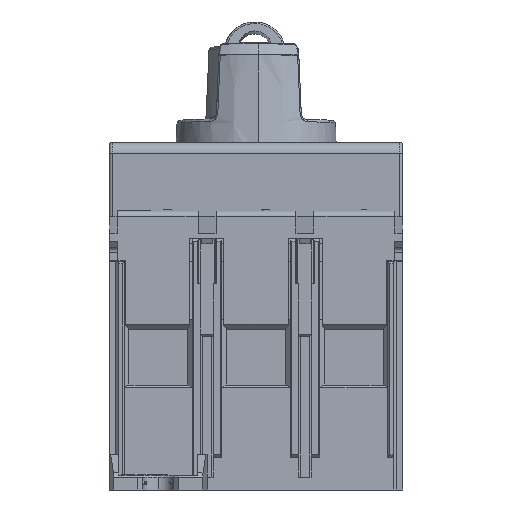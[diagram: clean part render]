
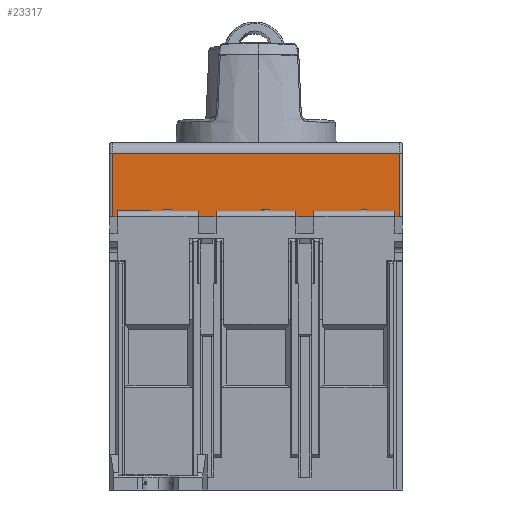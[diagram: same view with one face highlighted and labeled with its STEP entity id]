
A CAD part, left-side view. The second image highlights one B-rep face of the part: STEP entity #23317.
In plain terms, the highlighted planar face has unit normal (-1, 0, 0).
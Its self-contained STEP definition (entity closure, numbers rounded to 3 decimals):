
#341 = CARTESIAN_POINT ( 'NONE',  ( -34.4, -56.725, 37.85 ) ) ;
#591 = ORIENTED_EDGE ( 'NONE', *, *, #41991, .F. ) ;
#713 = DIRECTION ( 'NONE',  ( 1., 0., 0. ) ) ;
#1598 = EDGE_CURVE ( 'NONE', #88883, #44827, #21020, .T. ) ;
#1842 = EDGE_CURVE ( 'NONE', #58910, #8871, #80793, .T. ) ;
#2163 = CARTESIAN_POINT ( 'NONE',  ( -34.4, -5.725, 36.55 ) ) ;
#2368 = DIRECTION ( 'NONE',  ( 0., 0., -1. ) ) ;
#2602 = DIRECTION ( 'NONE',  ( 0., 1., 0. ) ) ;
#2796 = CARTESIAN_POINT ( 'NONE',  ( -34.4, -48.312, 36.55 ) ) ;
#3821 = EDGE_CURVE ( 'NONE', #44827, #4235, #41709, .T. ) ;
#4235 = VERTEX_POINT ( 'NONE', #32375 ) ;
#4775 = EDGE_CURVE ( 'NONE', #61405, #26999, #63298, .T. ) ;
#6396 = LINE ( 'NONE', #22716, #78029 ) ;
#6728 = VERTEX_POINT ( 'NONE', #45883 ) ;
#7455 = VERTEX_POINT ( 'NONE', #61599 ) ;
#8368 = FACE_OUTER_BOUND ( 'NONE', #71771, .T. ) ;
#8871 = VERTEX_POINT ( 'NONE', #24198 ) ;
#9165 = EDGE_CURVE ( 'NONE', #26999, #77267, #96109, .T. ) ;
#10632 = ORIENTED_EDGE ( 'NONE', *, *, #22462, .F. ) ;
#10977 = LINE ( 'NONE', #43643, #93504 ) ;
#12335 = LINE ( 'NONE', #59326, #63616 ) ;
#13411 = CARTESIAN_POINT ( 'NONE',  ( -34.4, -56.725, 55.55 ) ) ;
#13764 = VECTOR ( 'NONE', #42989, 1000. ) ;
#15178 = VERTEX_POINT ( 'NONE', #91835 ) ;
#15322 = LINE ( 'NONE', #95924, #76592 ) ;
#15963 = VECTOR ( 'NONE', #63114, 1000. ) ;
#17187 = CARTESIAN_POINT ( 'NONE',  ( -34.4, -6.225, 30.85 ) ) ;
#19722 = CARTESIAN_POINT ( 'NONE',  ( -34.4, -55.725, 42.2 ) ) ;
#19805 = VERTEX_POINT ( 'NONE', #37877 ) ;
#20336 = VERTEX_POINT ( 'NONE', #65311 ) ;
#21020 = LINE ( 'NONE', #82903, #28728 ) ;
#21453 = CARTESIAN_POINT ( 'NONE',  ( -34.4, -30.975, 43.85 ) ) ;
#22462 = EDGE_CURVE ( 'NONE', #20336, #61405, #10977, .T. ) ;
#22694 = ORIENTED_EDGE ( 'NONE', *, *, #28398, .F. ) ;
#22716 = CARTESIAN_POINT ( 'NONE',  ( -34.4, -48.312, 55.55 ) ) ;
#23317 = ADVANCED_FACE ( 'NONE', ( #8368 ), #95720, .F. ) ;
#23326 = ORIENTED_EDGE ( 'NONE', *, *, #9165, .F. ) ;
#24198 = CARTESIAN_POINT ( 'NONE',  ( -34.4, -56.225, 36.55 ) ) ;
#24459 = DIRECTION ( 'NONE',  ( 0., 0., 1. ) ) ;
#24687 = DIRECTION ( 'NONE',  ( 0., -1., 0. ) ) ;
#25008 = AXIS2_PLACEMENT_3D ( 'NONE', #70196, #713, #24687 ) ;
#25281 = LINE ( 'NONE', #2796, #15963 ) ;
#26360 = EDGE_CURVE ( 'NONE', #19805, #44683, #52230, .T. ) ;
#26877 = DIRECTION ( 'NONE',  ( 0., 0., 1. ) ) ;
#26999 = VERTEX_POINT ( 'NONE', #36585 ) ;
#27157 = LINE ( 'NONE', #21453, #13764 ) ;
#27671 = DIRECTION ( 'NONE',  ( 0., 1., 0. ) ) ;
#28398 = EDGE_CURVE ( 'NONE', #4235, #46835, #68521, .T. ) ;
#28728 = VECTOR ( 'NONE', #52683, 1000. ) ;
#29050 = DIRECTION ( 'NONE',  ( 0., 1., 0. ) ) ;
#30489 = LINE ( 'NONE', #341, #34358 ) ;
#31129 = CARTESIAN_POINT ( 'NONE',  ( -34.4, -6.625, 43.85 ) ) ;
#31379 = VECTOR ( 'NONE', #2602, 1000. ) ;
#31493 = DIRECTION ( 'NONE',  ( 0., 0., -1. ) ) ;
#31745 = CARTESIAN_POINT ( 'NONE',  ( -34.4, -30.975, 43.85 ) ) ;
#32375 = CARTESIAN_POINT ( 'NONE',  ( -34.4, -6.225, 42.2 ) ) ;
#34358 = VECTOR ( 'NONE', #31493, 1000. ) ;
#36585 = CARTESIAN_POINT ( 'NONE',  ( -34.4, -55.725, 43.85 ) ) ;
#37877 = CARTESIAN_POINT ( 'NONE',  ( -34.4, -5.725, 42.2 ) ) ;
#38278 = CARTESIAN_POINT ( 'NONE',  ( -34.4, -55.725, 37.85 ) ) ;
#38939 = ORIENTED_EDGE ( 'NONE', *, *, #90799, .F. ) ;
#39076 = ORIENTED_EDGE ( 'NONE', *, *, #76989, .F. ) ;
#40305 = ORIENTED_EDGE ( 'NONE', *, *, #1598, .F. ) ;
#40426 = DIRECTION ( 'NONE',  ( 0., 1., 0. ) ) ;
#41709 = LINE ( 'NONE', #17187, #78236 ) ;
#41991 = EDGE_CURVE ( 'NONE', #46835, #19805, #75586, .T. ) ;
#42584 = EDGE_CURVE ( 'NONE', #7455, #20336, #12335, .T. ) ;
#42989 = DIRECTION ( 'NONE',  ( 0., 1., 0. ) ) ;
#43643 = CARTESIAN_POINT ( 'NONE',  ( -34.4, -48.312, 42.2 ) ) ;
#44683 = VERTEX_POINT ( 'NONE', #2163 ) ;
#44827 = VERTEX_POINT ( 'NONE', #82367 ) ;
#45883 = CARTESIAN_POINT ( 'NONE',  ( -34.4, -5.225, 55.55 ) ) ;
#45980 = DIRECTION ( 'NONE',  ( 0., 0., 1. ) ) ;
#46738 = ORIENTED_EDGE ( 'NONE', *, *, #78044, .F. ) ;
#46835 = VERTEX_POINT ( 'NONE', #96295 ) ;
#47103 = ORIENTED_EDGE ( 'NONE', *, *, #81841, .F. ) ;
#49355 = LINE ( 'NONE', #65208, #90462 ) ;
#49572 = CARTESIAN_POINT ( 'NONE',  ( -34.4, -48.312, 36.55 ) ) ;
#52230 = LINE ( 'NONE', #60406, #60720 ) ;
#52683 = DIRECTION ( 'NONE',  ( 0., 1., 0. ) ) ;
#54384 = CARTESIAN_POINT ( 'NONE',  ( -34.4, -55.325, 43.85 ) ) ;
#55345 = VECTOR ( 'NONE', #29050, 1000. ) ;
#57540 = ORIENTED_EDGE ( 'NONE', *, *, #42584, .F. ) ;
#58342 = DIRECTION ( 'NONE',  ( 0., 1., 0. ) ) ;
#58549 = ORIENTED_EDGE ( 'NONE', *, *, #94511, .F. ) ;
#58910 = VERTEX_POINT ( 'NONE', #62084 ) ;
#59326 = CARTESIAN_POINT ( 'NONE',  ( -34.4, -48.312, 42.2 ) ) ;
#59345 = ORIENTED_EDGE ( 'NONE', *, *, #96325, .F. ) ;
#60406 = CARTESIAN_POINT ( 'NONE',  ( -34.4, -5.725, 37.85 ) ) ;
#60474 = VECTOR ( 'NONE', #24459, 1000. ) ;
#60556 = DIRECTION ( 'NONE',  ( 0., -1., 0. ) ) ;
#60720 = VECTOR ( 'NONE', #68583, 1000. ) ;
#61405 = VERTEX_POINT ( 'NONE', #19722 ) ;
#61599 = CARTESIAN_POINT ( 'NONE',  ( -34.4, -56.225, 42.2 ) ) ;
#62084 = CARTESIAN_POINT ( 'NONE',  ( -34.4, -56.725, 36.55 ) ) ;
#63114 = DIRECTION ( 'NONE',  ( 0., 1., 0. ) ) ;
#63298 = LINE ( 'NONE', #38278, #60474 ) ;
#63616 = VECTOR ( 'NONE', #27671, 1000. ) ;
#64675 = ORIENTED_EDGE ( 'NONE', *, *, #4775, .F. ) ;
#65165 = ORIENTED_EDGE ( 'NONE', *, *, #26360, .F. ) ;
#65208 = CARTESIAN_POINT ( 'NONE',  ( -34.4, -5.225, 37.85 ) ) ;
#65311 = CARTESIAN_POINT ( 'NONE',  ( -34.4, -56.125, 42.2 ) ) ;
#68521 = LINE ( 'NONE', #99712, #96879 ) ;
#68583 = DIRECTION ( 'NONE',  ( 0., 0., -1. ) ) ;
#70196 = CARTESIAN_POINT ( 'NONE',  ( -34.4, -48.312, 37.85 ) ) ;
#71191 = VECTOR ( 'NONE', #40426, 1000. ) ;
#71771 = EDGE_LOOP ( 'NONE', ( #39076, #47103, #65165, #591, #22694, #71896, #40305, #46738, #23326, #64675, #10632, #57540, #58549, #95365, #59345, #38939 ) ) ;
#71896 = ORIENTED_EDGE ( 'NONE', *, *, #3821, .F. ) ;
#74840 = DIRECTION ( 'NONE',  ( 0., 1., 0. ) ) ;
#75586 = LINE ( 'NONE', #99079, #55345 ) ;
#76592 = VECTOR ( 'NONE', #45980, 1000. ) ;
#76989 = EDGE_CURVE ( 'NONE', #15178, #6728, #49355, .T. ) ;
#77267 = VERTEX_POINT ( 'NONE', #54384 ) ;
#78029 = VECTOR ( 'NONE', #60556, 1000. ) ;
#78044 = EDGE_CURVE ( 'NONE', #77267, #88883, #27157, .T. ) ;
#78236 = VECTOR ( 'NONE', #2368, 1000. ) ;
#80793 = LINE ( 'NONE', #49572, #71191 ) ;
#81841 = EDGE_CURVE ( 'NONE', #44683, #15178, #25281, .T. ) ;
#82367 = CARTESIAN_POINT ( 'NONE',  ( -34.4, -6.225, 43.85 ) ) ;
#82903 = CARTESIAN_POINT ( 'NONE',  ( -34.4, -30.975, 43.85 ) ) ;
#88883 = VERTEX_POINT ( 'NONE', #31129 ) ;
#90462 = VECTOR ( 'NONE', #26877, 1000. ) ;
#90799 = EDGE_CURVE ( 'NONE', #6728, #91348, #6396, .T. ) ;
#91348 = VERTEX_POINT ( 'NONE', #13411 ) ;
#91835 = CARTESIAN_POINT ( 'NONE',  ( -34.4, -5.225, 36.55 ) ) ;
#93504 = VECTOR ( 'NONE', #74840, 1000. ) ;
#94511 = EDGE_CURVE ( 'NONE', #8871, #7455, #15322, .T. ) ;
#95365 = ORIENTED_EDGE ( 'NONE', *, *, #1842, .F. ) ;
#95720 = PLANE ( 'NONE',  #25008 ) ;
#95924 = CARTESIAN_POINT ( 'NONE',  ( -34.4, -56.225, 37.85 ) ) ;
#96109 = LINE ( 'NONE', #31745, #31379 ) ;
#96295 = CARTESIAN_POINT ( 'NONE',  ( -34.4, -5.825, 42.2 ) ) ;
#96325 = EDGE_CURVE ( 'NONE', #91348, #58910, #30489, .T. ) ;
#96879 = VECTOR ( 'NONE', #58342, 1000. ) ;
#99079 = CARTESIAN_POINT ( 'NONE',  ( -34.4, -48.312, 42.2 ) ) ;
#99712 = CARTESIAN_POINT ( 'NONE',  ( -34.4, -48.312, 42.2 ) ) ;
